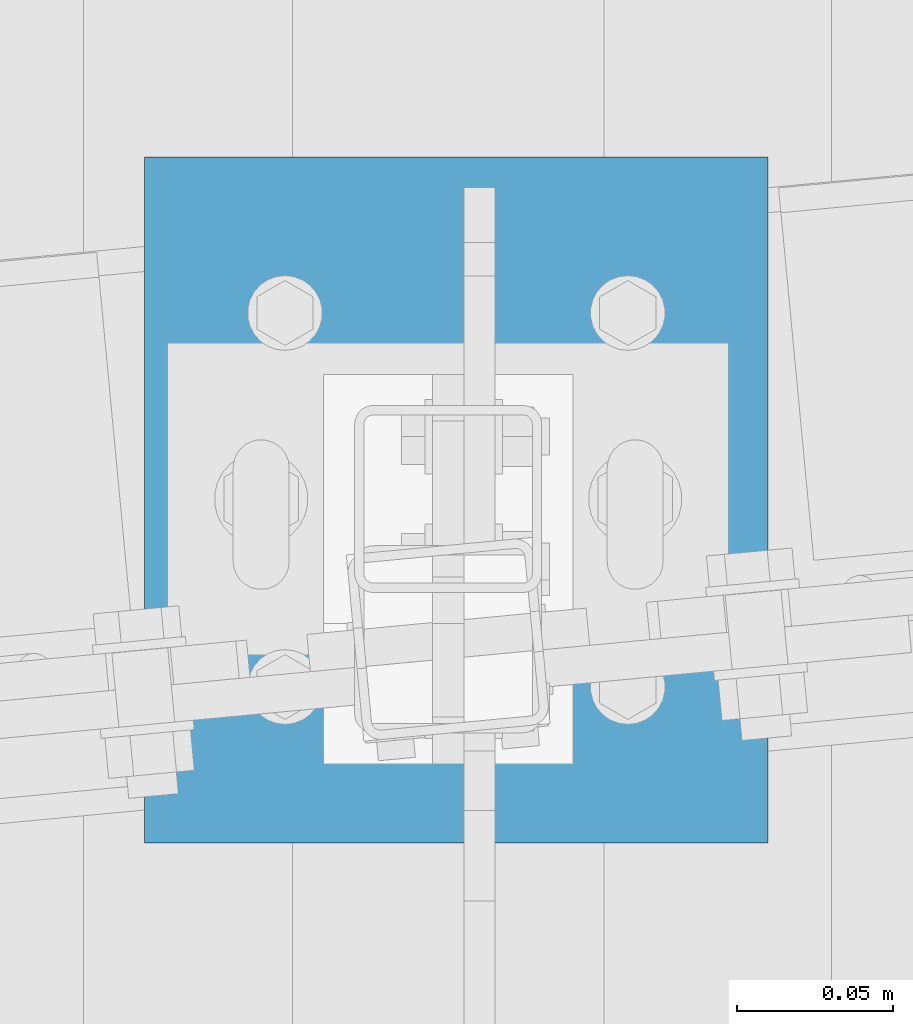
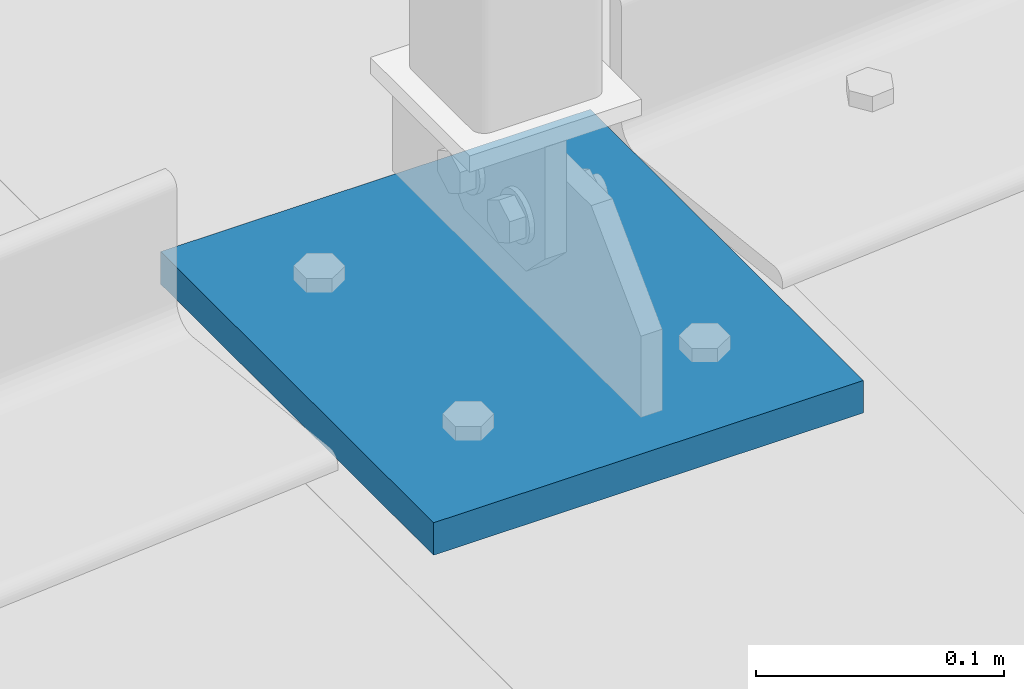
# One storey, part 87 of 271: 1 beam, 1 element without a shape of its own.
"""IFC2X3 building model written with IfcOpenShell, lengths in millimetres."""

from ifc_helpers import new_model, si_unit, frame, origin_with_axes, origin_2d_with_axis, place, context, subcontext, project, spatial, rectangle, extrude, material, type_object, element, aggregate, save


model = new_model("IFC2X3")

# Units and contexts
model_context = context("Model", 3, precision=1e-05, world=origin_with_axes())
body_context = subcontext(model_context, "Body", "Model", "MODEL_VIEW")
ifc_project = project(units=[si_unit("LENGTHUNIT", "METRE", prefix="MILLI"), si_unit("AREAUNIT", "SQUARE_METRE"), si_unit("VOLUMEUNIT", "CUBIC_METRE"), si_unit("MASSUNIT", "GRAM", prefix="KILO"), si_unit("TIMEUNIT", "SECOND"), si_unit("PLANEANGLEUNIT", "RADIAN"), si_unit("SOLIDANGLEUNIT", "STERADIAN"), si_unit("THERMODYNAMICTEMPERATUREUNIT", "DEGREE_CELSIUS"), si_unit("LUMINOUSINTENSITYUNIT", "LUMEN")], contexts=[model_context])

# Site, building, storey
site_placement = place(None, origin_with_axes())
site = spatial("IfcSite", under=ifc_project, at=site_placement, Name="Undefined", CompositionType="ELEMENT")
building_placement = place(site_placement, origin_with_axes())
building = spatial("IfcBuilding", under=site, at=building_placement, Name="Undefined", CompositionType="ELEMENT")
storey_placement = place(building_placement, origin_with_axes())
storey = spatial("IfcBuildingStorey", under=building, at=storey_placement, Name="Undefined", CompositionType="ELEMENT", Elevation=0.0)

# Assembly, beam
assembly_placement = place(storey_placement, origin_with_axes())
assembly = element("IfcElementAssembly", 1, at=assembly_placement, inside=storey, Name="BELKA", AssemblyPlace="NOTDEFINED", PredefinedType="RIGID_FRAME")
ifc_material = material(Name="STEEL/S355JR")
beam_type = type_object("IfcBeamType", Name="PL220*16", PredefinedType="NOTDEFINED")
beam_placement = place(assembly_placement, frame((9431.0, 4050.0, -7.99999999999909), z_axis=(0.0, -1.0, 0.0), x_axis=(1.0, 0.0, 0.0)))
beam = element("IfcBeam", 2, at=beam_placement, type_object=beam_type, material=ifc_material, Name="BELKA", ObjectType="PL220*16", context=body_context, shape_type="SweptSolid", body=[
    extrude(rectangle(XDim=16.0, YDim=220.0, at=origin_2d_with_axis()), frame((200.0, 0.0, 0.0), z_axis=(-1.0, 0.0, 1.38777878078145e-17), x_axis=(0.0, -1.0, 0.0)), (0.0, 0.0, 1.0), 200.0),
])
aggregate(assembly, [beam])

save(model, "model.ifc")
